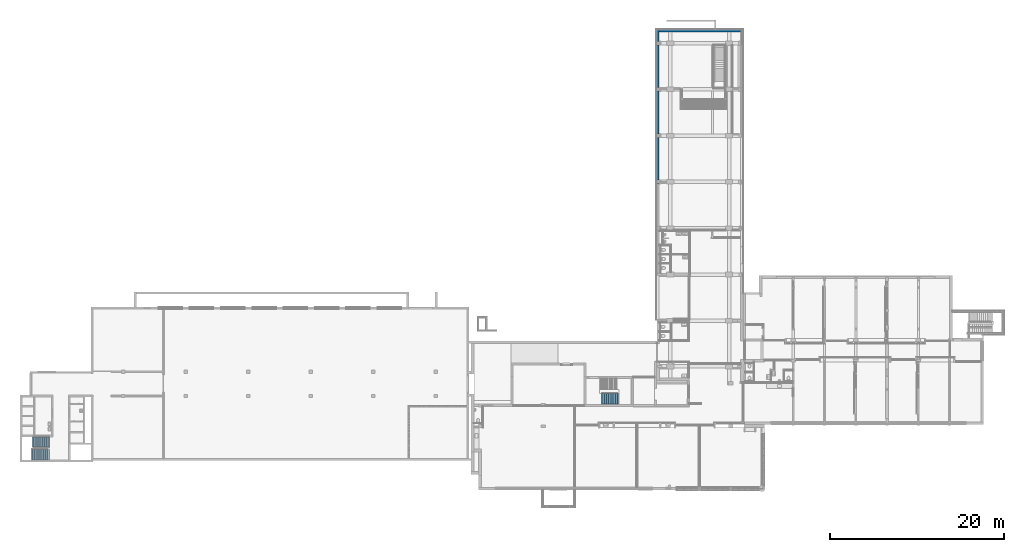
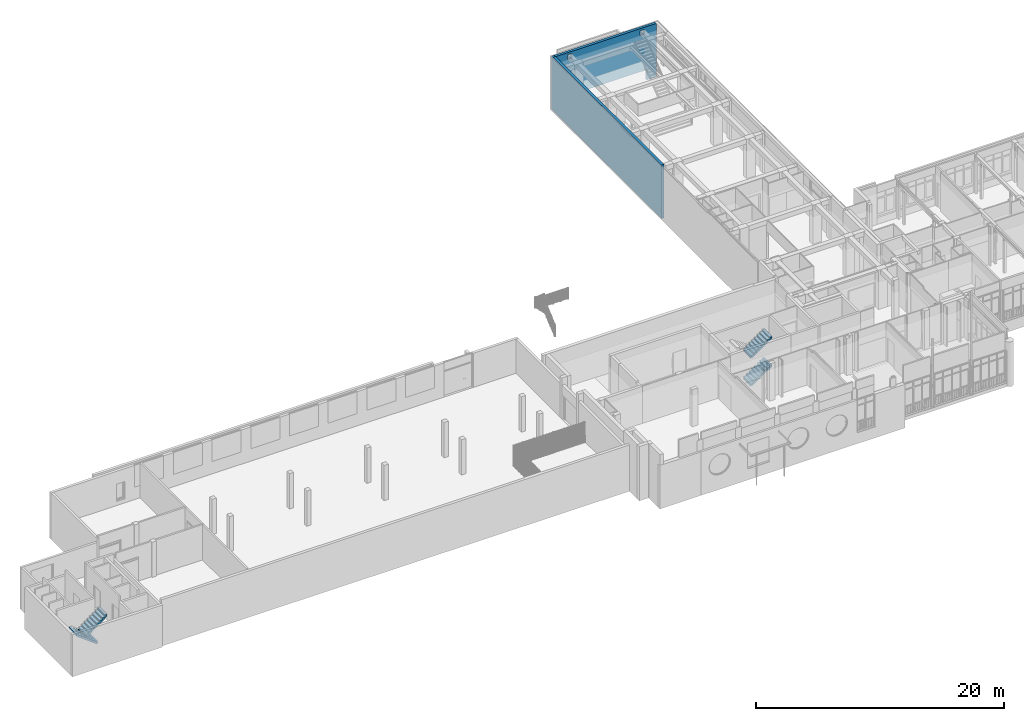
# One storey, part 98 of 135: 4 stair flights, 2 walls, 4 elements without a shape of their own.
"""IFC2X3 building model written with IfcOpenShell, lengths in millimetres."""

import ifcopenshell
import ifcopenshell.guid

model = None  # the IFC model being written
_history = None  # IfcOwnerHistory: only IFC2X3 demands one
_inside = {}  # id of a spatial element -> (the spatial element, [elements in it])
_under = {}  # id of a project, library or spatial element -> (it, [spatial elements below it])
_declared = {}  # id of a project -> (the project, [libraries it declares])
_typed = {}  # id of a type object -> (the type object, [elements of that type])
_made_of = {}  # id of a material, layer set ... -> (it, [elements and type objects made of it])


def new_model(schema):
    """Start an empty IFC model of exactly this schema.

    Asked for "IFC4X3", IfcOpenShell would pick the latest addendum, in which some entities
    have other attributes; the version numbers below select the first issue.
    IFC2X3 requires an IfcOwnerHistory on every rooted entity: one is made here for all.
    """
    global model, _history
    if schema == "IFC4X3":
        model = ifcopenshell.file(schema_version=(4, 3, 0, 0))
    else:
        model = ifcopenshell.file(schema=schema)
    _inside.clear()
    _under.clear()
    _declared.clear()
    _typed.clear()
    _made_of.clear()
    _history = None
    if model.schema == "IFC2X3":
        org = make("IfcOrganization", Name="unknown")
        user = make(
            "IfcPersonAndOrganization",
            ThePerson=make("IfcPerson", FamilyName="unknown"),
            TheOrganization=org,
        )
        app = make(
            "IfcApplication",
            ApplicationDeveloper=org,
            Version="unknown",
            ApplicationFullName="unknown",
            ApplicationIdentifier="unknown",
        )
        _history = make(
            "IfcOwnerHistory",
            OwningUser=user,
            OwningApplication=app,
            ChangeAction="ADDED",
            CreationDate=0,
        )
    return model


def make(cls, **values):
    """One entity of the class cls with the attributes given. An attribute that is None is left unset."""
    return model.create_entity(
        cls, **{name: value for name, value in values.items() if value is not None}
    )


def entity(cls, *values):
    """Any entity or typed value of the class cls, its attributes in the order of the schema. None: left unset."""
    e = model.create_entity(cls)
    for i, value in enumerate(values):
        if value is not None:
            e[i] = value
    return e


def rooted(cls, **values):
    """An entity with a GlobalId (a new one), such as an element, a storey or a relation."""
    return make(cls, GlobalId=ifcopenshell.guid.new(), OwnerHistory=_history, **values)


def si_unit(unit_type, name, prefix=None):
    """IfcSIUnit, for example si_unit("LENGTHUNIT", "METRE", prefix="MILLI")."""
    return make("IfcSIUnit", UnitType=unit_type, Prefix=prefix, Name=name)


def converted_unit(unit_type, name, factor, base, dimensions=None, offset=None):
    """IfcConversionBasedUnit, such as the inch: factor (a typed value) times the base unit."""
    return make(
        "IfcConversionBasedUnit"
        if offset is None
        else "IfcConversionBasedUnitWithOffset",
        ConversionOffset=offset,
        Dimensions=None
        if dimensions is None
        else entity("IfcDimensionalExponents", *dimensions),
        UnitType=unit_type,
        Name=name,
        ConversionFactor=make(
            "IfcMeasureWithUnit", ValueComponent=factor, UnitComponent=base
        ),
    )


def derived_unit(unit_type, elements):
    """IfcDerivedUnit: a product of units, each with its exponent."""
    return make(
        "IfcDerivedUnit",
        Elements=[
            make("IfcDerivedUnitElement", Unit=unit, Exponent=power)
            for unit, power in elements
        ],
        UnitType=unit_type,
    )


def money_unit(currency):
    """IfcMonetaryUnit."""
    return make("IfcMonetaryUnit", Currency=currency)


def assignment(units):
    """IfcUnitAssignment: the units of a project."""
    return None if units is None else make("IfcUnitAssignment", Units=units)


def point(xyz):
    """IfcCartesianPoint."""
    return None if xyz is None else make("IfcCartesianPoint", Coordinates=xyz)


def direction(xyz):
    """IfcDirection."""
    return None if xyz is None else make("IfcDirection", DirectionRatios=xyz)


def frame(location, z_axis=None, x_axis=None):
    """IfcAxis2Placement3D, a coordinate frame: its origin and axes. An axis left out is left unset."""
    return make(
        "IfcAxis2Placement3D",
        Location=point(location),
        Axis=direction(z_axis),
        RefDirection=direction(x_axis),
    )


def origin_with_axes():
    """The frame at (0, 0, 0) with the z axis (0, 0, 1) and the x axis (1, 0, 0) written out."""
    return frame((0.0, 0.0, 0.0), z_axis=(0.0, 0.0, 1.0), x_axis=(1.0, 0.0, 0.0))


def place(relative_to, where):
    """IfcLocalPlacement: puts the frame where relative to a parent placement (None: the world)."""
    return make(
        "IfcLocalPlacement", PlacementRelTo=relative_to, RelativePlacement=where
    )


def context(
    kind, dimensions, precision=None, world=None, true_north=None, identifier=None
):
    """IfcGeometricRepresentationContext, for example the 3D "Model" context."""
    return make(
        "IfcGeometricRepresentationContext",
        ContextIdentifier=identifier,
        ContextType=kind,
        CoordinateSpaceDimension=dimensions,
        Precision=precision,
        WorldCoordinateSystem=world,
        TrueNorth=true_north,
    )


def subcontext(parent, identifier, kind, view, scale=None):
    """IfcGeometricRepresentationSubContext, for example "Body" below "Model"."""
    return make(
        "IfcGeometricRepresentationSubContext",
        ContextIdentifier=identifier,
        ContextType=kind,
        ParentContext=parent,
        TargetScale=scale,
        TargetView=view,
    )


def project(units=None, contexts=None):
    """IfcProject with its units and contexts."""
    return rooted(
        "IfcProject",
        Name="project",
        RepresentationContexts=contexts,
        UnitsInContext=assignment(units),
    )


def spatial(cls, under=None, at=None, **own):
    """A site, building, storey or space (cls), placed at a placement, below another one or the project."""
    s = rooted(cls, ObjectPlacement=at, **own)
    if under is not None:
        _under.setdefault(under.id(), (under, []))[1].append(s)
    return s


def faces_of(points, faces, orient=None, outer=None):
    """IfcFace entities. A face is a list of loops; a loop is a list of indices into points, from 0.

    orient and outer hold one flag for each loop. By default every Orientation is true, the
    first loop of a face is its IfcFaceOuterBound and the others are IfcFaceBound.
    """
    made = []
    for i, loops in enumerate(faces):
        bounds = []
        for j, loop in enumerate(loops):
            is_outer = j == 0 if outer is None else outer[i][j]
            bounds.append(
                make(
                    "IfcFaceOuterBound" if is_outer else "IfcFaceBound",
                    Bound=make("IfcPolyLoop", Polygon=[points[k] for k in loop]),
                    Orientation=True if orient is None else orient[i][j],
                )
            )
        made.append(make("IfcFace", Bounds=bounds))
    return made


def faceted_brep(points, faces, orient=None, outer=None, voids=None):
    """IfcFacetedBrep: a solid bounded by flat faces; with voids (closed shells), ...WithVoids."""
    shared = [point(p) for p in points]
    hull = make("IfcClosedShell", CfsFaces=faces_of(shared, faces, orient, outer))
    if voids is None:
        return make("IfcFacetedBrep", Outer=hull)
    return make(
        "IfcFacetedBrepWithVoids",
        Outer=hull,
        Voids=[
            make(cls, CfsFaces=faces_of(shared, fs, o, b)) for cls, fs, o, b in voids
        ],
    )


def shape(context_of_items, identifier, shape_type, items):
    """IfcShapeRepresentation: the items that make up one representation, for example the "Body"."""
    return make(
        "IfcShapeRepresentation",
        ContextOfItems=context_of_items,
        RepresentationIdentifier=identifier,
        RepresentationType=shape_type,
        Items=items,
    )


def material(Name=None, Category=None):
    """IfcMaterial."""
    return make("IfcMaterial", Name=Name, Category=Category)


def made_of(thing, what):
    """Note that an element or type object is made of a material, layer set ...; save() writes the relation."""
    if what is not None:
        _made_of.setdefault(what.id(), (what, []))[1].append(thing)
    return thing


def type_object(cls, material=None, **own):
    """A type object (cls), such as IfcWallType, which elements share."""
    return made_of(rooted(cls, **own), material)


def element(
    cls,
    number,
    at=None,
    inside=None,
    cuts=None,
    type_object=None,
    material=None,
    context=None,
    identifier="Body",
    shape_type=None,
    held_by="IfcProductDefinitionShape",
    body=None,
    shapes=None,
    **own,
):
    """One element of the class cls, such as IfcWall. Its Tag is "e" and its number.

    at: its placement. inside: the storey or other place that contains it. cuts: it is an
    opening in that element (IfcRelVoidsElement). A single representation is given by context,
    identifier, shape_type and body (its items); several are given by shapes. held_by: the class
    of the entity that holds the representations. save() writes the other relations.
    """
    e = rooted(cls, Tag="e%d" % number, ObjectPlacement=at, **own)
    if body is not None:
        shapes = [shape(context, identifier, shape_type, body)]
    if shapes is not None:
        e.Representation = make(held_by, Representations=shapes)
    if inside is not None:
        _inside.setdefault(inside.id(), (inside, []))[1].append(e)
    if cuts is not None:
        rooted(
            "IfcRelVoidsElement", RelatingBuildingElement=cuts, RelatedOpeningElement=e
        )
    if type_object is not None:
        _typed.setdefault(type_object.id(), (type_object, []))[1].append(e)
    return made_of(e, material)


def aggregate(whole, parts):
    """IfcRelAggregates: a whole, such as a stair, and the parts it consists of."""
    return rooted("IfcRelAggregates", RelatingObject=whole, RelatedObjects=parts)


def save(model, path):
    """Write the relations noted so far, then the file.

    IfcRelAggregates (storeys below a building ...), IfcRelContainedInSpatialStructure (elements
    in a storey), IfcRelDefinesByType, IfcRelAssociatesMaterial and IfcRelDeclares: one each for
    every whole, place, type object, material and project.
    """
    for whole, parts in _under.values():
        aggregate(whole, parts)
    for where, things in _inside.values():
        rooted(
            "IfcRelContainedInSpatialStructure",
            RelatedElements=things,
            RelatingStructure=where,
        )
    for kind, things in _typed.values():
        rooted("IfcRelDefinesByType", RelatedObjects=things, RelatingType=kind)
    for what, things in _made_of.values():
        rooted("IfcRelAssociatesMaterial", RelatedObjects=things, RelatingMaterial=what)
    for by, libraries in _declared.values():
        rooted("IfcRelDeclares", RelatingContext=by, RelatedDefinitions=libraries)
    model.write(path)


model = new_model("IFC2X3")

# Units and contexts
model_context = context("Model", 3, precision=0.01, world=origin_with_axes(), true_north=direction((0.0, 1.0)))
body_context = subcontext(model_context, "Body", "Model", "MODEL_VIEW")
ifc_project = project(units=[si_unit("LENGTHUNIT", "METRE", prefix="MILLI"), si_unit("AREAUNIT", "SQUARE_METRE"), si_unit("VOLUMEUNIT", "CUBIC_METRE"), converted_unit("PLANEANGLEUNIT", "DEGREE", entity("IfcPlaneAngleMeasure", 0.0174532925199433), si_unit("PLANEANGLEUNIT", "RADIAN"), dimensions=[0, 0, 0, 0, 0, 0, 0]), money_unit("EUR"), converted_unit("TIMEUNIT", "Year", entity("IfcTimeMeasure", 31557600.0), si_unit("TIMEUNIT", "SECOND"), dimensions=[0, 0, 1, 0, 0, 0, 0]), si_unit("MASSUNIT", "GRAM", prefix="KILO"), si_unit("THERMODYNAMICTEMPERATUREUNIT", "DEGREE_CELSIUS"), si_unit("LUMINOUSINTENSITYUNIT", "LUMEN"), si_unit("ENERGYUNIT", "JOULE", prefix="MEGA"), derived_unit("THERMALCONDUCTANCEUNIT", [(si_unit("POWERUNIT", "WATT"), 1), (si_unit("LENGTHUNIT", "METRE"), -1), (si_unit("THERMODYNAMICTEMPERATUREUNIT", "KELVIN"), -1)]), derived_unit("SPECIFICHEATCAPACITYUNIT", [(si_unit("ENERGYUNIT", "JOULE"), 1), (si_unit("MASSUNIT", "GRAM", prefix="KILO"), -1), (si_unit("THERMODYNAMICTEMPERATUREUNIT", "KELVIN"), -1)]), derived_unit("MASSDENSITYUNIT", [(si_unit("MASSUNIT", "GRAM", prefix="KILO"), 1), (si_unit("VOLUMEUNIT", "CUBIC_METRE"), -1)])], contexts=[model_context])

# Site, building, storey
site_placement = place(None, origin_with_axes())
site = spatial("IfcSite", under=ifc_project, at=site_placement, Name="Site", CompositionType="ELEMENT")
building_placement = place(site_placement, origin_with_axes())
building = spatial("IfcBuilding", under=site, at=building_placement, Name="Naam gebouw", CompositionType="ELEMENT")
storey_placement = place(building_placement, origin_with_axes())
storey = spatial("IfcBuildingStorey", under=building, at=storey_placement, Name="Begane grond N", CompositionType="ELEMENT", Elevation=0.0)

# Walls
ifc_material_1 = material(Name="ALG - CONSTRUCTIEF")
wall_type = type_object("IfcWallType", Name="ALG - CONSTRUCTIEF 240", PredefinedType="NOTDEFINED")
wall_1_placement = place(storey_placement, frame((20536.0, 55885.91242510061, -1200.0), z_axis=(0.0, 0.0, 1.0), x_axis=(0.0, -1.0, 0.0)))
element("IfcWall", 1, at=wall_1_placement, inside=storey, type_object=wall_type, material=ifc_material_1, Name="_Wand-x", context=body_context, shape_type="Brep", body=[
    faceted_brep([(1080.000000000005, -149.999999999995, 1100.0), (1080.000000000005, -149.999999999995, 5150.0), (1480.000000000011, -149.999999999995, 5150.0), (1480.000000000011, -149.999999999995, 1100.0), (1080.000000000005, 0.0, 1100.0), (1080.000000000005, 0.0, 5150.0), (1480.000000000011, 0.0, 5150.0), (1480.000000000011, 0.0, 1100.0), (17485.3, 0.0, 0.0), (-240.000000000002, 0.0, 0.0), (-240.000000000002, 0.0, 5250.000000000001), (0.0, 0.0, 5250.000000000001), (0.0, 0.0, 5270.000000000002), (17485.3, 0.0, 5270.000000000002), (17470.00000000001, 0.0, 5150.0), (17070.0, 0.0, 5150.0), (17070.0, 0.0, 1100.0), (17470.00000000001, 0.0, 1100.0), (12140.00000000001, 0.0, 5150.0), (11740.0, 0.0, 5150.0), (11740.0, 0.0, 1100.0), (12140.00000000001, 0.0, 1100.0), (6810.000000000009, 0.0, 5150.0), (6410.000000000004, 0.0, 5150.0), (6410.000000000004, 0.0, 1100.0), (6810.000000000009, 0.0, 1100.0), (17485.3, -239.9999999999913, 0.0), (-240.000000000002, -239.9999999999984, 0.0), (-240.000000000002, -239.9999999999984, 5250.000000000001), (0.0, -239.9999999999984, 5250.000000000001), (0.0, -239.9999999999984, 5270.000000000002), (17485.3, -239.9999999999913, 5270.000000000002), (17070.0, -149.9999999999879, 5150.0), (17470.00000000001, -149.9999999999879, 5150.0), (17070.0, -149.9999999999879, 1100.0), (17470.00000000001, -149.9999999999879, 1100.0), (11740.0, -149.9999999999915, 5150.0), (12140.00000000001, -149.9999999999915, 5150.0), (11740.0, -149.9999999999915, 1100.0), (12140.00000000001, -149.9999999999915, 1100.0), (6410.000000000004, -149.9999999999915, 5150.0), (6810.000000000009, -149.9999999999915, 5150.0), (6410.000000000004, -149.9999999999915, 1100.0), (6810.000000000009, -149.9999999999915, 1100.0)], [[[0, 1, 2, 3]], [[0, 4, 5, 1]], [[1, 5, 6, 2]], [[2, 6, 7, 3]], [[3, 7, 4, 0]], [[8, 9, 10, 11, 12, 13], [14, 15, 16, 17], [18, 19, 20, 21], [22, 23, 24, 25], [7, 6, 5, 4]], [[9, 8, 26, 27]], [[10, 9, 27, 28]], [[10, 28, 29, 11]], [[12, 11, 29, 30]], [[30, 31, 13, 12]], [[31, 26, 8, 13]], [[32, 15, 14, 33]], [[34, 16, 15, 32]], [[35, 17, 16, 34]], [[33, 14, 17, 35]], [[36, 19, 18, 37]], [[38, 20, 19, 36]], [[39, 21, 20, 38]], [[37, 18, 21, 39]], [[40, 23, 22, 41]], [[42, 24, 23, 40]], [[43, 25, 24, 42]], [[41, 22, 25, 43]], [[26, 31, 30, 29, 28, 27]], [[34, 32, 33, 35]], [[38, 36, 37, 39]], [[42, 40, 41, 43]]]),
])
wall_2_placement = place(storey_placement, frame((20536.0, 55885.91242510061, -1200.0), z_axis=(0.0, 0.0, 1.0), x_axis=(1.0, 0.0, 0.0)))
element("IfcWall", 2, at=wall_2_placement, inside=storey, type_object=wall_type, material=ifc_material_1, Name="_Wand-x", context=body_context, shape_type="Brep", body=[
    faceted_brep([(0.0, 0.0, 0.0), (890.0000000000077, 0.0, 0.0), (890.0000000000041, 0.0, 1000.0), (8479.999999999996, 0.0, 1000.0), (8479.999999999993, 0.0, 0.0), (9369.999999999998, 0.0, 0.0), (9369.999999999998, 0.0, 5250.000000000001), (0.0, 0.0, 5250.000000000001), (1500.000000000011, 0.0, 4579.998562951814), (1100.000000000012, 0.0, 4579.998562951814), (1100.000000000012, 0.0, 5050.000000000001), (1500.000000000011, 0.0, 5050.000000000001), (8270.0, 0.0, 4579.998562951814), (7870.000000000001, 0.0, 4579.998562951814), (7870.000000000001, 0.0, 5050.000000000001), (8270.0, 0.0, 5050.000000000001), (0.0, 240.000000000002, 0.0), (890.0000000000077, 240.000000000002, 0.0), (890.0000000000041, 240.000000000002, 1000.0), (8479.999999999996, 240.000000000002, 1000.0), (8479.999999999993, 240.000000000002, 0.0), (9369.999999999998, 240.000000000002, 0.0), (9369.999999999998, 240.000000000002, 5250.000000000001), (0.0, 240.000000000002, 5250.000000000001), (1100.000000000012, 149.9999999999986, 4579.998645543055), (1500.000000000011, 149.9999999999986, 4579.998645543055), (1100.000000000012, 149.9999999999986, 5050.000000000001), (1500.000000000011, 149.9999999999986, 5050.000000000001), (7870.000000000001, 149.9999999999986, 4579.998645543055), (8270.0, 149.9999999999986, 4579.998645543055), (7870.000000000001, 149.9999999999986, 5050.000000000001), (8270.0, 149.9999999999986, 5050.000000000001)], [[[0, 1, 2, 3, 4, 5, 6, 7], [8, 9, 10, 11], [12, 13, 14, 15]], [[1, 0, 16, 17]], [[18, 2, 1, 17]], [[19, 3, 2, 18]], [[20, 4, 3, 19]], [[20, 21, 5, 4]], [[21, 22, 6, 5]], [[22, 23, 7, 6]], [[16, 0, 7, 23]], [[24, 9, 8, 25]], [[26, 10, 9, 24]], [[27, 11, 10, 26]], [[25, 8, 11, 27]], [[28, 13, 12, 29]], [[30, 14, 13, 28]], [[31, 15, 14, 30]], [[29, 12, 15, 31]], [[21, 20, 19, 18, 17, 16, 23, 22]], [[26, 24, 25, 27]], [[28, 29, 31, 30]]]),
])

# Stair, stair flight
stair_1_placement = place(storey_placement, frame((-51664.591364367, 7815.575024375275, 2170.0), z_axis=(0.0, 0.0, 1.0), x_axis=(-1.0, 0.0, 0.0)))
stair_1 = element("IfcStair", 3, at=stair_1_placement, inside=storey, Name="_Trap-x", ShapeType="NOTDEFINED")
ifc_material_2 = material(Name="Beton C")
stair_flight_type = type_object("IfcStairFlightType", Name="IfcStairFlight", PredefinedType="NOTDEFINED")
stair_flight_1_placement = place(stair_1_placement, origin_with_axes())
stair_flight_1 = element("IfcStairFlight", 4, at=stair_flight_1_placement, type_object=stair_flight_type, material=ifc_material_2, Name="_Trapsegment-x", context=body_context, shape_type="Brep", body=[
    faceted_brep([(0.0, 0.0, -99.99999999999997), (0.0, 1200.0, -99.99999999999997), (0.0, 1200.0, -38.00000000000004), (0.0, 0.0, -38.00000000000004), (-175.4527077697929, 1200.0, -99.99999999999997), (-175.4527077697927, 0.0, -99.99999999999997), (-1834.11668826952, 1200.0, 1143.466671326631), (-1917.485628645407, 1200.0, 1205.966671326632), (-2000.854569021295, 1200.0, 1268.466671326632), (-2000.854569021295, 1200.0, 1462.0), (-1808.847747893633, 1200.0, 1462.0), (-1808.847747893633, 1200.0, 1274.5), (-1558.740926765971, 1200.0, 1274.5), (-1558.740926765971, 1200.0, 1087.0), (-1308.634105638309, 1200.0, 1087.0), (-1308.634105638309, 1200.0, 899.5), (-1058.527284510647, 1200.0, 899.5), (-1058.527284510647, 1200.0, 712.0), (-808.4204633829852, 1200.0, 712.0), (-808.4204633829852, 1200.0, 524.5), (-558.3136422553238, 1200.0, 524.5), (-558.3136422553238, 1200.0, 336.9999999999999), (-308.2068211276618, 1200.0, 336.9999999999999), (-308.2068211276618, 1200.0, 149.5), (-58.10000000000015, 1200.0, 149.5), (-58.10000000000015, 1200.0, -38.00000000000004), (-250.106821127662, 1200.0, -44.03332867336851), (-333.4757615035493, 1200.0, 18.46667132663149), (-416.8447018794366, 1200.0, 80.96667132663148), (-500.2136422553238, 1200.0, 143.4666713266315), (-583.5825826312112, 1200.0, 205.9666713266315), (-666.9515230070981, 1200.0, 268.4666713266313), (-750.3204633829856, 1200.0, 330.9666713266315), (-833.6894037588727, 1200.0, 393.4666713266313), (-917.05834413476, 1200.0, 455.9666713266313), (-1000.427284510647, 1200.0, 518.4666713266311), (-1083.796224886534, 1200.0, 580.9666713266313), (-1167.165165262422, 1200.0, 643.4666713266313), (-1250.534105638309, 1200.0, 705.9666713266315), (-1333.903046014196, 1200.0, 768.4666713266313), (-1417.271986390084, 1200.0, 830.9666713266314), (-1500.640926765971, 1200.0, 893.4666713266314), (-1584.009867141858, 1200.0, 955.9666713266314), (-1667.378807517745, 1200.0, 1018.466671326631), (-1750.747747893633, 1200.0, 1080.966671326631), (-58.10000000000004, 0.0, -38.00000000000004), (-58.10000000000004, 0.0, 149.5), (-308.2068211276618, 0.0, 149.5), (-308.2068211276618, 0.0, 336.9999999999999), (-558.3136422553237, 0.0, 336.9999999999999), (-558.3136422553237, 0.0, 524.5), (-808.4204633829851, 0.0, 524.5), (-808.4204633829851, 0.0, 712.0), (-1058.527284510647, 0.0, 712.0), (-1058.527284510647, 0.0, 899.5), (-1308.634105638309, 0.0, 899.5), (-1308.634105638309, 0.0, 1087.0), (-1558.740926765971, 0.0, 1087.0), (-1558.740926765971, 0.0, 1274.5), (-1808.847747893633, 0.0, 1274.5), (-1808.847747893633, 0.0, 1462.0), (-2000.854569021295, 0.0, 1462.0), (-2000.854569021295, 0.0, 1268.466671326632), (-1917.485628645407, 0.0, 1205.966671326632), (-1834.11668826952, 0.0, 1143.466671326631), (-1750.747747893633, 0.0, 1080.966671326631), (-1667.378807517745, 0.0, 1018.466671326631), (-1584.009867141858, 0.0, 955.9666713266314), (-1500.640926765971, 0.0, 893.4666713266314), (-1417.271986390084, 0.0, 830.9666713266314), (-1333.903046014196, 0.0, 768.4666713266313), (-1250.534105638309, 0.0, 705.9666713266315), (-1167.165165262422, 0.0, 643.4666713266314), (-1083.796224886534, 0.0, 580.9666713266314), (-1000.427284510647, 0.0, 518.4666713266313), (-917.05834413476, 0.0, 455.9666713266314), (-833.6894037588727, 0.0, 393.4666713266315), (-750.3204633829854, 0.0, 330.9666713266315), (-666.9515230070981, 0.0, 268.4666713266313), (-583.5825826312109, 0.0, 205.9666713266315), (-500.2136422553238, 0.0, 143.4666713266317), (-416.8447018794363, 0.0, 80.96667132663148), (-333.4757615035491, 0.0, 18.46667132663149), (-250.1068211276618, 0.0, -44.03332867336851)], [[[0, 1, 2, 3]], [[4, 1, 0, 5]], [[6, 7, 8, 9, 10, 11, 12, 13, 14, 15, 16, 17, 18, 19, 20, 21, 22, 23, 24, 25, 2, 1, 4, 26, 27, 28, 29, 30, 31, 32, 33, 34, 35, 36, 37, 38, 39, 40, 41, 42, 43, 44]], [[25, 45, 3, 2]], [[5, 0, 3, 45, 46, 47, 48, 49, 50, 51, 52, 53, 54, 55, 56, 57, 58, 59, 60, 61, 62, 63, 64, 65, 66, 67, 68, 69, 70, 71, 72, 73, 74, 75, 76, 77, 78, 79, 80, 81, 82, 83]], [[83, 26, 4, 5]], [[63, 7, 6, 64]], [[62, 8, 7, 63]], [[9, 8, 62, 61]], [[9, 61, 60, 10]], [[60, 59, 11, 10]], [[59, 58, 12, 11]], [[58, 57, 13, 12]], [[57, 56, 14, 13]], [[56, 55, 15, 14]], [[55, 54, 16, 15]], [[54, 53, 17, 16]], [[53, 52, 18, 17]], [[52, 51, 19, 18]], [[51, 50, 20, 19]], [[50, 49, 21, 20]], [[49, 48, 22, 21]], [[48, 47, 23, 22]], [[47, 46, 24, 23]], [[46, 45, 25, 24]], [[82, 27, 26, 83]], [[81, 28, 27, 82]], [[80, 29, 28, 81]], [[79, 30, 29, 80]], [[78, 31, 30, 79]], [[77, 32, 31, 78]], [[76, 33, 32, 77]], [[75, 34, 33, 76]], [[74, 35, 34, 75]], [[73, 36, 35, 74]], [[72, 37, 36, 73]], [[71, 38, 37, 72]], [[70, 39, 38, 71]], [[69, 40, 39, 70]], [[68, 41, 40, 69]], [[67, 42, 41, 68]], [[66, 43, 42, 67]], [[65, 44, 43, 66]], [[64, 6, 44, 65]]]),
])
aggregate(stair_1, [stair_flight_1])

stair_2_placement = place(storey_placement, frame((-49663.73679534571, 8065.575024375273, 0.0), z_axis=(0.0, 0.0, 1.0), x_axis=(1.0, 0.0, 0.0)))
stair_2 = element("IfcStair", 5, at=stair_2_placement, inside=storey, Name="_Trap-x", ShapeType="NOTDEFINED")
stair_flight_2_placement = place(stair_2_placement, origin_with_axes())
stair_flight_2 = element("IfcStairFlight", 6, at=stair_flight_2_placement, type_object=stair_flight_type, material=ifc_material_2, Name="_Trapsegment-x", context=body_context, shape_type="Brep", body=[
    faceted_brep([(0.0, 0.0, -99.99999999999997), (0.0, 1200.0, -99.99999999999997), (0.0, 1200.0, -38.00000000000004), (0.0, 0.0, -38.00000000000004), (-175.4527077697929, 1200.0, -99.99999999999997), (-175.4527077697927, 0.0, -99.99999999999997), (-1834.11668826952, 1200.0, 1143.466671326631), (-1917.485628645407, 1200.0, 1205.966671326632), (-2000.854569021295, 1200.0, 1268.466671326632), (-2000.854569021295, 1200.0, 1462.0), (-1808.847747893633, 1200.0, 1462.0), (-1808.847747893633, 1200.0, 1274.5), (-1558.740926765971, 1200.0, 1274.5), (-1558.740926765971, 1200.0, 1087.0), (-1308.634105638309, 1200.0, 1087.0), (-1308.634105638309, 1200.0, 899.5), (-1058.527284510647, 1200.0, 899.5), (-1058.527284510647, 1200.0, 712.0), (-808.4204633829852, 1200.0, 712.0), (-808.4204633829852, 1200.0, 524.5), (-558.3136422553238, 1200.0, 524.5), (-558.3136422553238, 1200.0, 336.9999999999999), (-308.2068211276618, 1200.0, 336.9999999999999), (-308.2068211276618, 1200.0, 149.5), (-58.10000000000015, 1200.0, 149.5), (-58.10000000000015, 1200.0, -38.00000000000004), (-250.106821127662, 1200.0, -44.03332867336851), (-333.4757615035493, 1200.0, 18.46667132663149), (-416.8447018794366, 1200.0, 80.96667132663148), (-500.2136422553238, 1200.0, 143.4666713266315), (-583.5825826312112, 1200.0, 205.9666713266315), (-666.9515230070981, 1200.0, 268.4666713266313), (-750.3204633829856, 1200.0, 330.9666713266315), (-833.6894037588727, 1200.0, 393.4666713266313), (-917.05834413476, 1200.0, 455.9666713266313), (-1000.427284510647, 1200.0, 518.4666713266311), (-1083.796224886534, 1200.0, 580.9666713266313), (-1167.165165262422, 1200.0, 643.4666713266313), (-1250.534105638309, 1200.0, 705.9666713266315), (-1333.903046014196, 1200.0, 768.4666713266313), (-1417.271986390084, 1200.0, 830.9666713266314), (-1500.640926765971, 1200.0, 893.4666713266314), (-1584.009867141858, 1200.0, 955.9666713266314), (-1667.378807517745, 1200.0, 1018.466671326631), (-1750.747747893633, 1200.0, 1080.966671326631), (-58.10000000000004, 0.0, -38.00000000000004), (-58.10000000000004, 0.0, 149.5), (-308.2068211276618, 0.0, 149.5), (-308.2068211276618, 0.0, 336.9999999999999), (-558.3136422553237, 0.0, 336.9999999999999), (-558.3136422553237, 0.0, 524.5), (-808.4204633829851, 0.0, 524.5), (-808.4204633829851, 0.0, 712.0), (-1058.527284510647, 0.0, 712.0), (-1058.527284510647, 0.0, 899.5), (-1308.634105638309, 0.0, 899.5), (-1308.634105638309, 0.0, 1087.0), (-1558.740926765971, 0.0, 1087.0), (-1558.740926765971, 0.0, 1274.5), (-1808.847747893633, 0.0, 1274.5), (-1808.847747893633, 0.0, 1462.0), (-2000.854569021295, 0.0, 1462.0), (-2000.854569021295, 0.0, 1268.466671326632), (-1917.485628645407, 0.0, 1205.966671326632), (-1834.11668826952, 0.0, 1143.466671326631), (-1750.747747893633, 0.0, 1080.966671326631), (-1667.378807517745, 0.0, 1018.466671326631), (-1584.009867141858, 0.0, 955.9666713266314), (-1500.640926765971, 0.0, 893.4666713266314), (-1417.271986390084, 0.0, 830.9666713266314), (-1333.903046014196, 0.0, 768.4666713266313), (-1250.534105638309, 0.0, 705.9666713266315), (-1167.165165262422, 0.0, 643.4666713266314), (-1083.796224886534, 0.0, 580.9666713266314), (-1000.427284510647, 0.0, 518.4666713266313), (-917.05834413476, 0.0, 455.9666713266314), (-833.6894037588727, 0.0, 393.4666713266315), (-750.3204633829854, 0.0, 330.9666713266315), (-666.9515230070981, 0.0, 268.4666713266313), (-583.5825826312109, 0.0, 205.9666713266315), (-500.2136422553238, 0.0, 143.4666713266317), (-416.8447018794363, 0.0, 80.96667132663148), (-333.4757615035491, 0.0, 18.46667132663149), (-250.1068211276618, 0.0, -44.03332867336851)], [[[0, 1, 2, 3]], [[4, 1, 0, 5]], [[6, 7, 8, 9, 10, 11, 12, 13, 14, 15, 16, 17, 18, 19, 20, 21, 22, 23, 24, 25, 2, 1, 4, 26, 27, 28, 29, 30, 31, 32, 33, 34, 35, 36, 37, 38, 39, 40, 41, 42, 43, 44]], [[25, 45, 3, 2]], [[5, 0, 3, 45, 46, 47, 48, 49, 50, 51, 52, 53, 54, 55, 56, 57, 58, 59, 60, 61, 62, 63, 64, 65, 66, 67, 68, 69, 70, 71, 72, 73, 74, 75, 76, 77, 78, 79, 80, 81, 82, 83]], [[83, 26, 4, 5]], [[63, 7, 6, 64]], [[62, 8, 7, 63]], [[9, 8, 62, 61]], [[9, 61, 60, 10]], [[60, 59, 11, 10]], [[59, 58, 12, 11]], [[58, 57, 13, 12]], [[57, 56, 14, 13]], [[56, 55, 15, 14]], [[55, 54, 16, 15]], [[54, 53, 17, 16]], [[53, 52, 18, 17]], [[52, 51, 19, 18]], [[51, 50, 20, 19]], [[50, 49, 21, 20]], [[49, 48, 22, 21]], [[48, 47, 23, 22]], [[47, 46, 24, 23]], [[46, 45, 25, 24]], [[82, 27, 26, 83]], [[81, 28, 27, 82]], [[80, 29, 28, 81]], [[79, 30, 29, 80]], [[78, 31, 30, 79]], [[77, 32, 31, 78]], [[76, 33, 32, 77]], [[75, 34, 33, 76]], [[74, 35, 34, 75]], [[73, 36, 35, 74]], [[72, 37, 36, 73]], [[71, 38, 37, 72]], [[70, 39, 38, 71]], [[69, 40, 39, 70]], [[68, 41, 40, 69]], [[67, 42, 41, 68]], [[66, 43, 42, 67]], [[65, 44, 43, 66]], [[64, 6, 44, 65]]]),
])
aggregate(stair_2, [stair_flight_2])

stair_3_placement = place(storey_placement, frame((13939.64594946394, 14274.60803964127, -3.999999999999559), z_axis=(0.0, 0.0, 1.0), x_axis=(-1.0, 0.0, 0.0)))
stair_3 = element("IfcStair", 7, at=stair_3_placement, inside=storey, Name="_Trap-x", ShapeType="NOTDEFINED")
stair_flight_3_placement = place(stair_3_placement, origin_with_axes())
stair_flight_3 = element("IfcStairFlight", 8, at=stair_flight_3_placement, type_object=stair_flight_type, material=ifc_material_2, Name="_Trapsegment-x", context=body_context, shape_type="Brep", body=[
    faceted_brep([(0.0, 0.0, -99.99999999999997), (0.0, 1240.0, -99.99999999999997), (0.0, 1240.0, -38.00000000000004), (0.0, 0.0, -38.00000000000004), (-179.2564849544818, 1240.0, -99.99999999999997), (-179.2564849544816, 0.0, -99.99999999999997), (-1834.11668826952, 1240.0, 1047.982465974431), (-1917.485628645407, 1240.0, 1105.815799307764), (-2000.854569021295, 1240.0, 1163.649132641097), (-2000.854569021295, 1240.0, 1350.0), (-1808.847747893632, 1240.0, 1350.0), (-1808.847747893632, 1240.0, 1176.5), (-1558.740926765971, 1240.0, 1176.5), (-1558.740926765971, 1240.0, 1003.0), (-1308.634105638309, 1240.0, 1003.0), (-1308.634105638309, 1240.0, 829.4999999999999), (-1058.527284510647, 1240.0, 829.4999999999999), (-1058.527284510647, 1240.0, 655.9999999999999), (-808.4204633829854, 1240.0, 655.9999999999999), (-808.4204633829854, 1240.0, 482.4999999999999), (-558.3136422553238, 1240.0, 482.4999999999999), (-558.3136422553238, 1240.0, 308.9999999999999), (-308.2068211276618, 1240.0, 308.9999999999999), (-308.2068211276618, 1240.0, 135.4999999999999), (-58.10000000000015, 1240.0, 135.4999999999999), (-58.10000000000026, 1240.0, -38.00000000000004), (-250.106821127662, 1240.0, -50.85086735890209), (-333.4757615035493, 1240.0, 6.982465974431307), (-416.8447018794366, 1240.0, 64.8157993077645), (-500.2136422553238, 1240.0, 122.6491326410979), (-583.5825826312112, 1240.0, 180.4824659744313), (-666.9515230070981, 1240.0, 238.3157993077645), (-750.3204633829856, 1240.0, 296.1491326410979), (-833.6894037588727, 1240.0, 353.9824659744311), (-917.05834413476, 1240.0, 411.8157993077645), (-1000.427284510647, 1240.0, 469.6491326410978), (-1083.796224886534, 1240.0, 527.4824659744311), (-1167.165165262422, 1240.0, 585.3157993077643), (-1250.534105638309, 1240.0, 643.1491326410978), (-1333.903046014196, 1240.0, 700.9824659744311), (-1417.271986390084, 1240.0, 758.8157993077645), (-1500.640926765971, 1240.0, 816.6491326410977), (-1584.009867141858, 1240.0, 874.482465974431), (-1667.378807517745, 1240.0, 932.3157993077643), (-1750.747747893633, 1240.0, 990.1491326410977), (-58.10000000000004, 0.0, -38.00000000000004), (-58.10000000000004, 0.0, 135.4999999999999), (-308.2068211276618, 0.0, 135.4999999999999), (-308.2068211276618, 0.0, 308.9999999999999), (-558.3136422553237, 0.0, 308.9999999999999), (-558.3136422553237, 0.0, 482.4999999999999), (-808.4204633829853, 0.0, 482.4999999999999), (-808.4204633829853, 0.0, 655.9999999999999), (-1058.527284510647, 0.0, 655.9999999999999), (-1058.527284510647, 0.0, 829.4999999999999), (-1308.634105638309, 0.0, 829.4999999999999), (-1308.634105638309, 0.0, 1003.0), (-1558.740926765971, 0.0, 1003.0), (-1558.740926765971, 0.0, 1176.5), (-1808.847747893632, 0.0, 1176.5), (-1808.847747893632, 0.0, 1350.0), (-2000.854569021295, 0.0, 1350.0), (-2000.854569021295, 0.0, 1163.649132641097), (-1917.485628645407, 0.0, 1105.815799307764), (-1834.11668826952, 0.0, 1047.982465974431), (-1750.747747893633, 0.0, 990.1491326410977), (-1667.378807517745, 0.0, 932.3157993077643), (-1584.009867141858, 0.0, 874.482465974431), (-1500.640926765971, 0.0, 816.6491326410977), (-1417.271986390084, 0.0, 758.8157993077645), (-1333.903046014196, 0.0, 700.9824659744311), (-1250.534105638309, 0.0, 643.1491326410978), (-1167.165165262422, 0.0, 585.3157993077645), (-1083.796224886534, 0.0, 527.4824659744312), (-1000.427284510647, 0.0, 469.6491326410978), (-917.05834413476, 0.0, 411.8157993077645), (-833.6894037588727, 0.0, 353.9824659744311), (-750.3204633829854, 0.0, 296.1491326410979), (-666.9515230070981, 0.0, 238.3157993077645), (-583.5825826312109, 0.0, 180.4824659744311), (-500.2136422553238, 0.0, 122.6491326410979), (-416.8447018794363, 0.0, 64.8157993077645), (-333.4757615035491, 0.0, 6.982465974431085), (-250.1068211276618, 0.0, -50.85086735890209)], [[[0, 1, 2, 3]], [[4, 1, 0, 5]], [[6, 7, 8, 9, 10, 11, 12, 13, 14, 15, 16, 17, 18, 19, 20, 21, 22, 23, 24, 25, 2, 1, 4, 26, 27, 28, 29, 30, 31, 32, 33, 34, 35, 36, 37, 38, 39, 40, 41, 42, 43, 44]], [[25, 45, 3, 2]], [[5, 0, 3, 45, 46, 47, 48, 49, 50, 51, 52, 53, 54, 55, 56, 57, 58, 59, 60, 61, 62, 63, 64, 65, 66, 67, 68, 69, 70, 71, 72, 73, 74, 75, 76, 77, 78, 79, 80, 81, 82, 83]], [[83, 26, 4, 5]], [[63, 7, 6, 64]], [[62, 8, 7, 63]], [[9, 8, 62, 61]], [[9, 61, 60, 10]], [[60, 59, 11, 10]], [[59, 58, 12, 11]], [[58, 57, 13, 12]], [[57, 56, 14, 13]], [[56, 55, 15, 14]], [[55, 54, 16, 15]], [[54, 53, 17, 16]], [[53, 52, 18, 17]], [[52, 51, 19, 18]], [[51, 50, 20, 19]], [[50, 49, 21, 20]], [[49, 48, 22, 21]], [[48, 47, 23, 22]], [[47, 46, 24, 23]], [[46, 45, 25, 24]], [[82, 27, 26, 83]], [[81, 28, 27, 82]], [[80, 29, 28, 81]], [[79, 30, 29, 80]], [[78, 31, 30, 79]], [[77, 32, 31, 78]], [[76, 33, 32, 77]], [[75, 34, 33, 76]], [[74, 35, 34, 75]], [[73, 36, 35, 74]], [[72, 37, 36, 73]], [[71, 38, 37, 72]], [[70, 39, 38, 71]], [[69, 40, 39, 70]], [[68, 41, 40, 69]], [[67, 42, 41, 68]], [[66, 43, 42, 67]], [[65, 44, 43, 66]], [[64, 6, 44, 65]]]),
])
aggregate(stair_3, [stair_flight_3])

stair_4_placement = place(storey_placement, frame((13939.64594946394, 14274.60803964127, 2762.0), z_axis=(0.0, 0.0, 1.0), x_axis=(-1.0, 0.0, 0.0)))
stair_4 = element("IfcStair", 9, at=stair_4_placement, inside=storey, Name="_Trap-x", ShapeType="NOTDEFINED")
stair_flight_4_placement = place(stair_4_placement, origin_with_axes())
stair_flight_4 = element("IfcStairFlight", 10, at=stair_flight_4_placement, type_object=stair_flight_type, material=ifc_material_2, Name="_Trapsegment-x", context=body_context, shape_type="Brep", body=[
    faceted_brep([(0.0, 0.0, -99.99999999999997), (0.0, 1240.0, -99.99999999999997), (0.0, 1240.0, -38.00000000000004), (0.0, 0.0, -38.00000000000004), (-179.2564849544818, 1240.0, -99.99999999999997), (-179.2564849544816, 0.0, -99.99999999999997), (-1834.11668826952, 1240.0, 1047.982465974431), (-1917.485628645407, 1240.0, 1105.815799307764), (-2000.854569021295, 1240.0, 1163.649132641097), (-2000.854569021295, 1240.0, 1350.0), (-1808.847747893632, 1240.0, 1350.0), (-1808.847747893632, 1240.0, 1176.5), (-1558.740926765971, 1240.0, 1176.5), (-1558.740926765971, 1240.0, 1003.0), (-1308.634105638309, 1240.0, 1003.0), (-1308.634105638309, 1240.0, 829.4999999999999), (-1058.527284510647, 1240.0, 829.4999999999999), (-1058.527284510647, 1240.0, 655.9999999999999), (-808.4204633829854, 1240.0, 655.9999999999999), (-808.4204633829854, 1240.0, 482.4999999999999), (-558.3136422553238, 1240.0, 482.4999999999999), (-558.3136422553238, 1240.0, 308.9999999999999), (-308.2068211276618, 1240.0, 308.9999999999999), (-308.2068211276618, 1240.0, 135.4999999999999), (-58.10000000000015, 1240.0, 135.4999999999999), (-58.10000000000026, 1240.0, -38.00000000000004), (-250.106821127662, 1240.0, -50.85086735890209), (-333.4757615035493, 1240.0, 6.982465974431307), (-416.8447018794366, 1240.0, 64.8157993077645), (-500.2136422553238, 1240.0, 122.6491326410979), (-583.5825826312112, 1240.0, 180.4824659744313), (-666.9515230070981, 1240.0, 238.3157993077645), (-750.3204633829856, 1240.0, 296.1491326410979), (-833.6894037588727, 1240.0, 353.9824659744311), (-917.05834413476, 1240.0, 411.8157993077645), (-1000.427284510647, 1240.0, 469.6491326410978), (-1083.796224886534, 1240.0, 527.4824659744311), (-1167.165165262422, 1240.0, 585.3157993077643), (-1250.534105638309, 1240.0, 643.1491326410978), (-1333.903046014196, 1240.0, 700.9824659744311), (-1417.271986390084, 1240.0, 758.8157993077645), (-1500.640926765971, 1240.0, 816.6491326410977), (-1584.009867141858, 1240.0, 874.482465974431), (-1667.378807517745, 1240.0, 932.3157993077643), (-1750.747747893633, 1240.0, 990.1491326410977), (-58.10000000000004, 0.0, -38.00000000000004), (-58.10000000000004, 0.0, 135.4999999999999), (-308.2068211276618, 0.0, 135.4999999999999), (-308.2068211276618, 0.0, 308.9999999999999), (-558.3136422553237, 0.0, 308.9999999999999), (-558.3136422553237, 0.0, 482.4999999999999), (-808.4204633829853, 0.0, 482.4999999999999), (-808.4204633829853, 0.0, 655.9999999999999), (-1058.527284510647, 0.0, 655.9999999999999), (-1058.527284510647, 0.0, 829.4999999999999), (-1308.634105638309, 0.0, 829.4999999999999), (-1308.634105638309, 0.0, 1003.0), (-1558.740926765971, 0.0, 1003.0), (-1558.740926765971, 0.0, 1176.5), (-1808.847747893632, 0.0, 1176.5), (-1808.847747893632, 0.0, 1350.0), (-2000.854569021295, 0.0, 1350.0), (-2000.854569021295, 0.0, 1163.649132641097), (-1917.485628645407, 0.0, 1105.815799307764), (-1834.11668826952, 0.0, 1047.982465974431), (-1750.747747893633, 0.0, 990.1491326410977), (-1667.378807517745, 0.0, 932.3157993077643), (-1584.009867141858, 0.0, 874.482465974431), (-1500.640926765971, 0.0, 816.6491326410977), (-1417.271986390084, 0.0, 758.8157993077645), (-1333.903046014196, 0.0, 700.9824659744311), (-1250.534105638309, 0.0, 643.1491326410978), (-1167.165165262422, 0.0, 585.3157993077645), (-1083.796224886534, 0.0, 527.4824659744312), (-1000.427284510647, 0.0, 469.6491326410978), (-917.05834413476, 0.0, 411.8157993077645), (-833.6894037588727, 0.0, 353.9824659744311), (-750.3204633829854, 0.0, 296.1491326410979), (-666.9515230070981, 0.0, 238.3157993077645), (-583.5825826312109, 0.0, 180.4824659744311), (-500.2136422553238, 0.0, 122.6491326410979), (-416.8447018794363, 0.0, 64.8157993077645), (-333.4757615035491, 0.0, 6.982465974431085), (-250.1068211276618, 0.0, -50.85086735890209)], [[[0, 1, 2, 3]], [[4, 1, 0, 5]], [[6, 7, 8, 9, 10, 11, 12, 13, 14, 15, 16, 17, 18, 19, 20, 21, 22, 23, 24, 25, 2, 1, 4, 26, 27, 28, 29, 30, 31, 32, 33, 34, 35, 36, 37, 38, 39, 40, 41, 42, 43, 44]], [[25, 45, 3, 2]], [[5, 0, 3, 45, 46, 47, 48, 49, 50, 51, 52, 53, 54, 55, 56, 57, 58, 59, 60, 61, 62, 63, 64, 65, 66, 67, 68, 69, 70, 71, 72, 73, 74, 75, 76, 77, 78, 79, 80, 81, 82, 83]], [[83, 26, 4, 5]], [[63, 7, 6, 64]], [[62, 8, 7, 63]], [[9, 8, 62, 61]], [[9, 61, 60, 10]], [[60, 59, 11, 10]], [[59, 58, 12, 11]], [[58, 57, 13, 12]], [[57, 56, 14, 13]], [[56, 55, 15, 14]], [[55, 54, 16, 15]], [[54, 53, 17, 16]], [[53, 52, 18, 17]], [[52, 51, 19, 18]], [[51, 50, 20, 19]], [[50, 49, 21, 20]], [[49, 48, 22, 21]], [[48, 47, 23, 22]], [[47, 46, 24, 23]], [[46, 45, 25, 24]], [[82, 27, 26, 83]], [[81, 28, 27, 82]], [[80, 29, 28, 81]], [[79, 30, 29, 80]], [[78, 31, 30, 79]], [[77, 32, 31, 78]], [[76, 33, 32, 77]], [[75, 34, 33, 76]], [[74, 35, 34, 75]], [[73, 36, 35, 74]], [[72, 37, 36, 73]], [[71, 38, 37, 72]], [[70, 39, 38, 71]], [[69, 40, 39, 70]], [[68, 41, 40, 69]], [[67, 42, 41, 68]], [[66, 43, 42, 67]], [[65, 44, 43, 66]], [[64, 6, 44, 65]]]),
])
aggregate(stair_4, [stair_flight_4])

save(model, "model.ifc")
